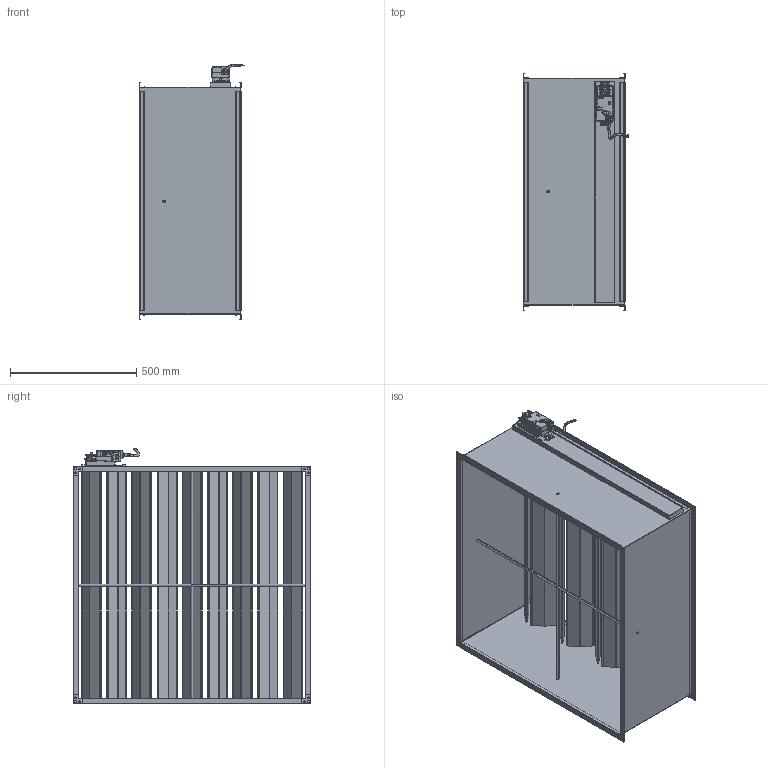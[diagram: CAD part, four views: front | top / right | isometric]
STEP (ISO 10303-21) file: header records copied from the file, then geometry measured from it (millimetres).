
FILE_DESCRIPTION (( 'STEP AP214' ), '1' );
FILE_NAME ('VAV-S900900.STEP', '2025-05-08T12:57:20', ( '' ), ( '' ), 'SwSTEP 2.0', 'SolidWorks 2025', '' );
FILE_SCHEMA (( 'AUTOMOTIVE_DESIGN' ));
Length unit declared in the file: millimetre
Products named in the file (1): VAV-S900900
Bounding box: 420.15 x 941 x 1013.69 mm (x, y, z)
Surface area: 6211561.2 mm2 (no closed solid volume)
Topology: 0 solids, 48 shells, 2174 faces, 5709 edges, 3642 vertices
Faces by surface type: plane 1571, cylinder 550, bspline 24, sphere 18, cone 10, torus 1
Full cylindrical faces by diameter (mm): 1 x4, 6 x17, 8 x1, 9 x8, 11 x1, 20 x1, 21 x2
Entity records: 94716 total; most frequent: CARTESIAN_POINT 42098, ORIENTED_EDGE 11209, DIRECTION 7404, EDGE_CURVE 5628, VERTEX_POINT 3617, B_SPLINE_CURVE_WITH_KNOTS 3170, AXIS2_PLACEMENT_3D 2807, EDGE_LOOP 2388
